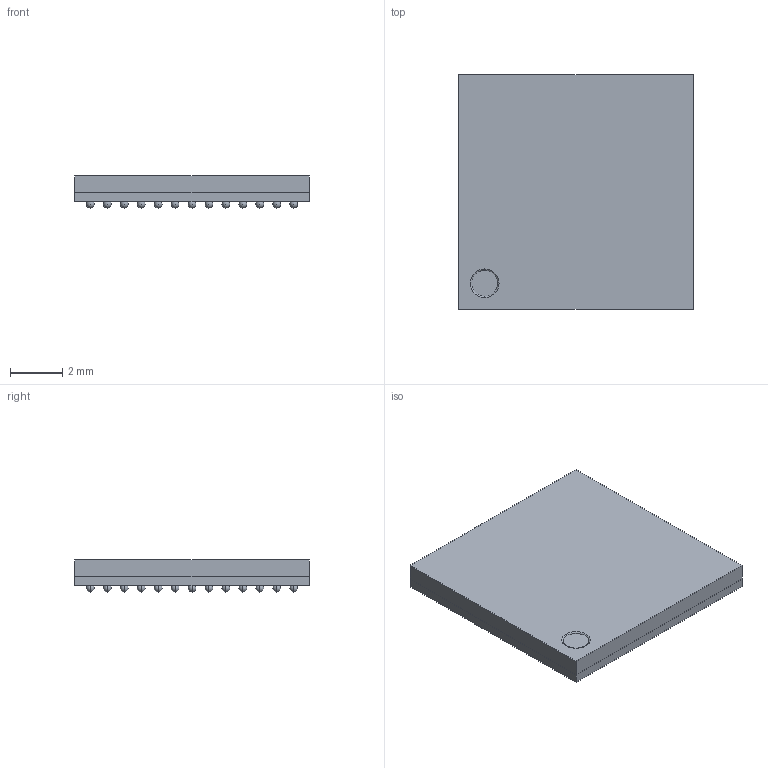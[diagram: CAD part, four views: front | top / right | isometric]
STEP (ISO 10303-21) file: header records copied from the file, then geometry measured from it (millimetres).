
FILE_DESCRIPTION (( 'STEP AP214' ), '1' );
FILE_NAME ( 'BGA169CP65_13X13_900X900X123B30.STEP', '2021-10-06T06:48:58', ( '' ), ( '' ), '', '©2017 PCB Libraries, Inc.', '' );
FILE_SCHEMA (( 'AUTOMOTIVE_DESIGN' ));
Length unit declared in the file: millimetre
Products named in the file (1): BGA169CP65_13X13_900X900X123B30
Bounding box: 9 x 9 x 1.23 mm (x, y, z)
Volume: 82.5 mm3; surface area: 407.5 mm2
Topology: 171 solids, 171 shells, 353 faces, 1213 edges, 865 vertices
Faces by surface type: sphere 338, plane 13, torus 2
Entity records: 9608 total; most frequent: DIRECTION 1420, CARTESIAN_POINT 1080, ORIENTED_EDGE 736, AXIS2_PLACEMENT_3D 698, STYLED_ITEM 525, PRESENTATION_LAYER_ASSIGNMENT 525, MECHANICAL_DESIGN_GEOMETRIC_PRESENTATION_REPRESENTATION 525, EDGE_CURVE 368
